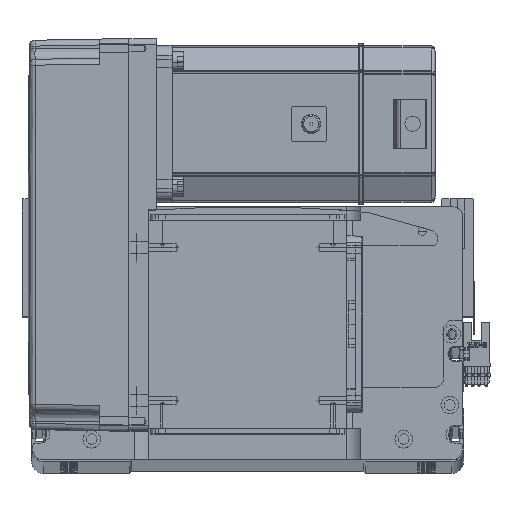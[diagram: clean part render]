
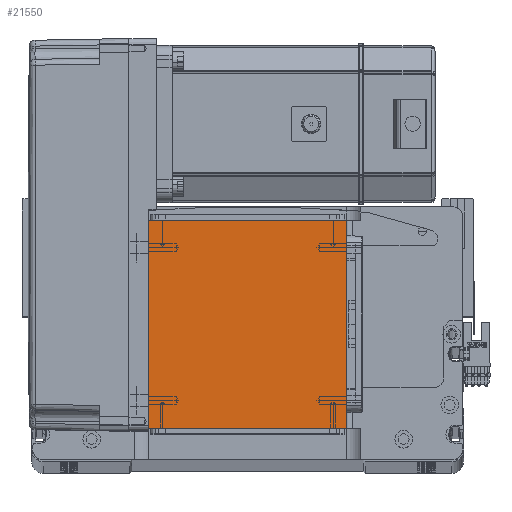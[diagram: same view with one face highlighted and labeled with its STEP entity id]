
A CAD part, top view. The second image highlights one B-rep face of the part: STEP entity #21550.
In plain terms, the highlighted planar face has unit normal (0, 0, 1).
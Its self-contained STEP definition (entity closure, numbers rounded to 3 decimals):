
#692 = VERTEX_POINT ( 'NONE', #4257 ) ;
#994 = VECTOR ( 'NONE', #55245, 1000. ) ;
#1749 = EDGE_CURVE ( 'NONE', #13454, #30877, #16569, .T. ) ;
#3551 = DIRECTION ( 'NONE',  ( 0., 1., 0. ) ) ;
#4231 = DIRECTION ( 'NONE',  ( 0., 0., 1. ) ) ;
#4257 = CARTESIAN_POINT ( 'NONE',  ( -50.5, 16., 115. ) ) ;
#5749 = VECTOR ( 'NONE', #40876, 1000. ) ;
#8076 = EDGE_CURVE ( 'NONE', #30877, #692, #48259, .T. ) ;
#8373 = VERTEX_POINT ( 'NONE', #27682 ) ;
#10057 = ORIENTED_EDGE ( 'NONE', *, *, #19112, .T. ) ;
#11592 = DIRECTION ( 'NONE',  ( 1., 0., 0. ) ) ;
#13454 = VERTEX_POINT ( 'NONE', #48151 ) ;
#13600 = EDGE_CURVE ( 'NONE', #8373, #13454, #57000, .T. ) ;
#15120 = VECTOR ( 'NONE', #11592, 1000. ) ;
#16569 = LINE ( 'NONE', #21457, #5749 ) ;
#17568 = CARTESIAN_POINT ( 'NONE',  ( -50.5, 122., 115. ) ) ;
#19112 = EDGE_CURVE ( 'NONE', #692, #8373, #45767, .T. ) ;
#20473 = AXIS2_PLACEMENT_3D ( 'NONE', #37212, #4231, #36563 ) ;
#21457 = CARTESIAN_POINT ( 'NONE',  ( -50.5, 122., 115. ) ) ;
#21550 = ADVANCED_FACE ( 'NONE', ( #22816 ), #51263, .T. ) ;
#22816 = FACE_OUTER_BOUND ( 'NONE', #34092, .T. ) ;
#27682 = CARTESIAN_POINT ( 'NONE',  ( 50.5, 16., 115. ) ) ;
#30877 = VERTEX_POINT ( 'NONE', #40888 ) ;
#31731 = ORIENTED_EDGE ( 'NONE', *, *, #13600, .T. ) ;
#32302 = VECTOR ( 'NONE', #3551, 1000. ) ;
#33635 = ORIENTED_EDGE ( 'NONE', *, *, #1749, .T. ) ;
#34092 = EDGE_LOOP ( 'NONE', ( #55569, #10057, #31731, #33635 ) ) ;
#36563 = DIRECTION ( 'NONE',  ( 1., 0., 0. ) ) ;
#37212 = CARTESIAN_POINT ( 'NONE',  ( 0., 0., 115. ) ) ;
#40876 = DIRECTION ( 'NONE',  ( -1., 0., 0. ) ) ;
#40888 = CARTESIAN_POINT ( 'NONE',  ( -50.5, 122., 115. ) ) ;
#43790 = CARTESIAN_POINT ( 'NONE',  ( -50.5, 16., 115. ) ) ;
#45767 = LINE ( 'NONE', #43790, #15120 ) ;
#48151 = CARTESIAN_POINT ( 'NONE',  ( 50.5, 122., 115. ) ) ;
#48259 = LINE ( 'NONE', #17568, #994 ) ;
#51263 = PLANE ( 'NONE',  #20473 ) ;
#55245 = DIRECTION ( 'NONE',  ( 0., -1., 0. ) ) ;
#55569 = ORIENTED_EDGE ( 'NONE', *, *, #8076, .T. ) ;
#57000 = LINE ( 'NONE', #59438, #32302 ) ;
#59438 = CARTESIAN_POINT ( 'NONE',  ( 50.5, 122., 115. ) ) ;
